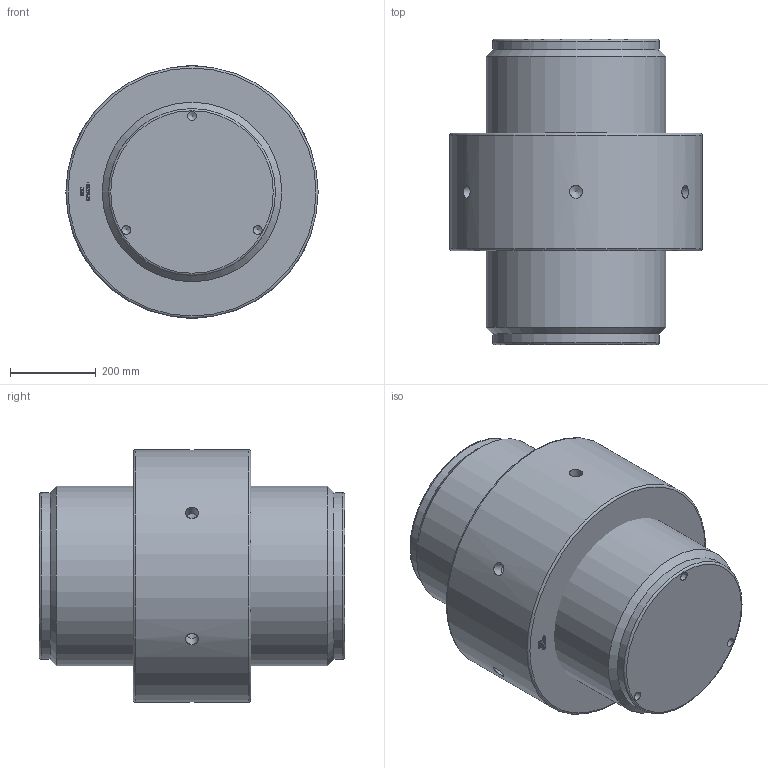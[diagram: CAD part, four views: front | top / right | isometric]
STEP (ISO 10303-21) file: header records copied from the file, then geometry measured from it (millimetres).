
FILE_DESCRIPTION(/* description */ (''),/* implementation_level */ '2;1');
FILE_NAME(/* name */ 'F:\Clienti LS\Redaelli\CYT\CYT\ARRNGEMENT\CYT136 61 061 0.stp',/* time_stamp */ '2021-05-09T08:58:45+02:00',/* author */ ('ranca'),/* organization */ (''),/* preprocessor_version */ 'ST-DEVELOPER v16.13',/* originating_system */ 'Autodesk Inventor 2018',/* authorisation */ '');
FILE_SCHEMA (('AUTOMOTIVE_DESIGN { 1 0 10303 214 3 1 1 }'));
Length unit declared in the file: millimetre
Products named in the file (3): CYT012-61-061-0; CYT012-61-061-0_1; CYT012-61-061-0_DADO
Assembly tree (2 placements, depth 2):
  CYT012-61-061-0
    CYT012-61-061-0_1
    CYT012-61-061-0_DADO
Bounding box: 590 x 714 x 590 mm (x, y, z)
Volume: 135694729.5 mm3; surface area: 2352123.5 mm2
Topology: 2 solids, 2 shells, 372 faces, 1028 edges, 684 vertices
Faces by surface type: bspline 202, plane 141, cylinder 14, cone 11, torus 4
Full cylindrical faces by diameter (mm): 20.752 x3, 30 x6, 390 x2, 413.505 x1, 420 x1, 590 x1
Entity records: 12842 total; most frequent: CARTESIAN_POINT 4864, ORIENTED_EDGE 1966, EDGE_CURVE 983, DIRECTION 943, VERTEX_POINT 668, LINE 541, VECTOR 541, EDGE_LOOP 427
